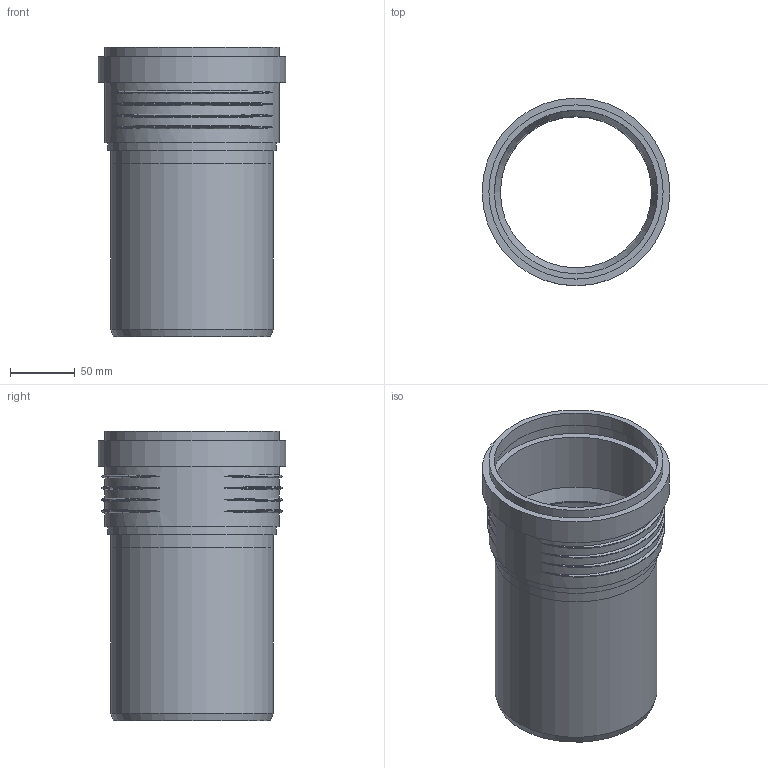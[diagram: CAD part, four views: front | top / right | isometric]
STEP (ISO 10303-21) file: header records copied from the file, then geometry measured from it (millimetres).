
FILE_DESCRIPTION(/* description */ (''),/* implementation_level */ '2;1');
FILE_NAME(/* name */ 'Z:\Geberit\Export\NewStep\390600.stp',/* time_stamp */ '2014-04-02T08:15:21+02:00',/* author */ ('ML'),/* organization */ (''),/* preprocessor_version */ 'ST-DEVELOPER v15.2',/* originating_system */ 'Autodesk Inventor 2014',/* authorisation */ '');
FILE_SCHEMA (('AUTOMOTIVE_DESIGN { 1 0 10303 214 3 1 1 }'));
Length unit declared in the file: millimetre
Products named in the file (3): 861666; 861586ohne; 390600
Bounding box: 144.95 x 144.95 x 223.9 mm (x, y, z)
Volume: 407708.2 mm3; surface area: 202777.4 mm2
Topology: 2 solids, 2 shells, 47 faces, 104 edges, 71 vertices
Faces by surface type: torus 24, cylinder 11, plane 10, cone 2
Full cylindrical faces by diameter (mm): 116.8 x2, 125.2 x2, 126.2 x2, 130.4 x1, 134.6 x2, 136.55 x1, 144.95 x1
Entity records: 2003 total; most frequent: CARTESIAN_POINT 962, DIRECTION 182, ORIENTED_EDGE 174, AXIS2_PLACEMENT_3D 91, EDGE_CURVE 87, EDGE_LOOP 78, VERTEX_POINT 71, STYLED_ITEM 49
